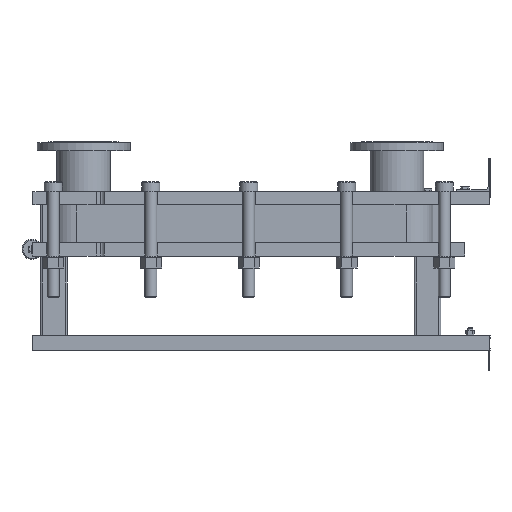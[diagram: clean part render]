
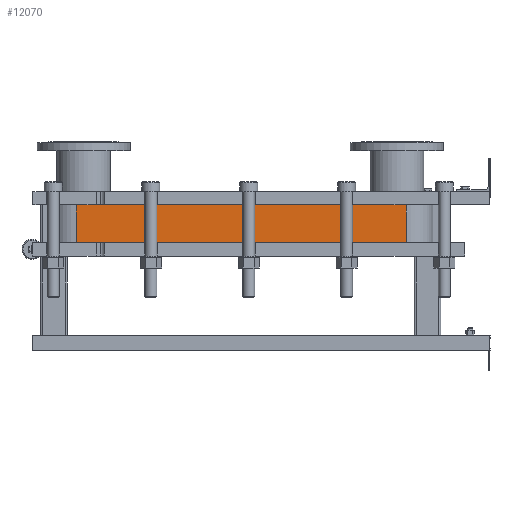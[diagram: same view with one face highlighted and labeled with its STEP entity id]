
A CAD part, left-side view. The second image highlights one B-rep face of the part: STEP entity #12070.
In plain terms, the highlighted planar face has unit normal (-1, 0, 0).
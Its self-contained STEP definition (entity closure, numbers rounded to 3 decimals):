
#1064=LINE('',#21140,#2164);
#1065=LINE('',#21144,#2165);
#1066=LINE('',#21146,#2166);
#1067=LINE('',#21147,#2167);
#2164=VECTOR('',#15790,10.);
#2165=VECTOR('',#15795,10.);
#2166=VECTOR('',#15796,10.);
#2167=VECTOR('',#15797,10.);
#3304=FACE_OUTER_BOUND('',#4091,.T.);
#4091=EDGE_LOOP('',(#9793,#9794,#9795,#9796));
#5677=VERTEX_POINT('',#21137);
#5678=VERTEX_POINT('',#21139);
#5679=VERTEX_POINT('',#21143);
#5680=VERTEX_POINT('',#21145);
#7118=EDGE_CURVE('',#5678,#5677,#1064,.T.);
#7120=EDGE_CURVE('',#5677,#5679,#1065,.T.);
#7121=EDGE_CURVE('',#5680,#5679,#1066,.T.);
#7122=EDGE_CURVE('',#5680,#5678,#1067,.T.);
#9793=ORIENTED_EDGE('',*,*,#7120,.T.);
#9794=ORIENTED_EDGE('',*,*,#7121,.F.);
#9795=ORIENTED_EDGE('',*,*,#7122,.T.);
#9796=ORIENTED_EDGE('',*,*,#7118,.T.);
#11441=PLANE('',#13191);
#12070=ADVANCED_FACE('',(#3304),#11441,.T.);
#13191=AXIS2_PLACEMENT_3D('',#21142,#15793,#15794);
#15790=DIRECTION('',(0.,0.,-1.));
#15793=DIRECTION('center_axis',(-1.,0.,0.));
#15794=DIRECTION('ref_axis',(0.,1.,0.));
#15795=DIRECTION('',(0.,-1.,0.));
#15796=DIRECTION('',(0.,0.,-1.));
#15797=DIRECTION('',(0.,1.,0.));
#21137=CARTESIAN_POINT('',(-248.152,1243.818,-113.85));
#21139=CARTESIAN_POINT('',(-248.152,1243.818,0.));
#21140=CARTESIAN_POINT('',(-248.152,1243.818,0.));
#21142=CARTESIAN_POINT('Origin',(-248.152,251.818,0.));
#21143=CARTESIAN_POINT('',(-248.152,251.818,-113.85));
#21144=CARTESIAN_POINT('',(-248.152,499.818,-113.85));
#21145=CARTESIAN_POINT('',(-248.152,251.818,0.));
#21146=CARTESIAN_POINT('',(-248.152,251.818,0.));
#21147=CARTESIAN_POINT('',(-248.152,251.818,0.));
